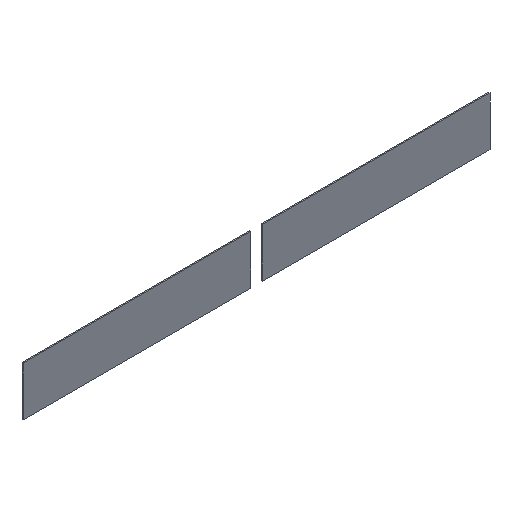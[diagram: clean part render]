
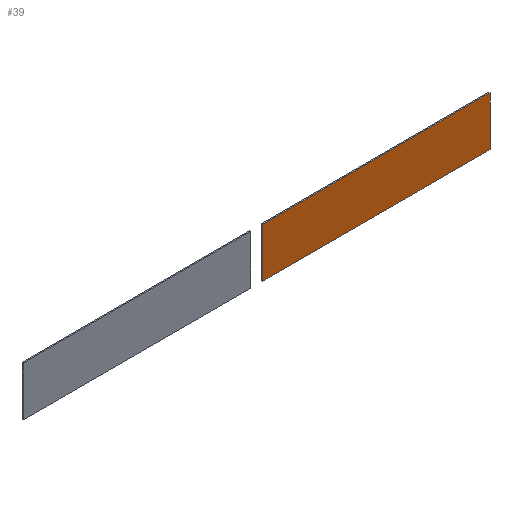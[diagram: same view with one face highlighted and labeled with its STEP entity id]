
A CAD part, isometric view. The second image highlights one B-rep face of the part: STEP entity #39.
In plain terms, the highlighted planar face has unit normal (0, -1, 0).
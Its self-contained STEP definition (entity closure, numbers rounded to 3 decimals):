
#39=ADVANCED_FACE('',(#51),#355,.T.);
#51=FACE_OUTER_BOUND('',#63,.T.);
#63=EDGE_LOOP('',(#87,#88,#89,#90));
#87=ORIENTED_EDGE('',*,*,#249,.F.);
#88=ORIENTED_EDGE('',*,*,#246,.F.);
#89=ORIENTED_EDGE('',*,*,#243,.F.);
#90=ORIENTED_EDGE('',*,*,#239,.F.);
#119=PCURVE('',#351,#167);
#123=PCURVE('',#352,#171);
#127=PCURVE('',#353,#175);
#131=PCURVE('',#354,#179);
#135=PCURVE('',#355,#183);
#136=PCURVE('',#355,#184);
#137=PCURVE('',#355,#185);
#138=PCURVE('',#355,#186);
#167=DEFINITIONAL_REPRESENTATION('',(#264),#586);
#171=DEFINITIONAL_REPRESENTATION('',(#272),#586);
#175=DEFINITIONAL_REPRESENTATION('',(#279),#586);
#179=DEFINITIONAL_REPRESENTATION('',(#286),#586);
#183=DEFINITIONAL_REPRESENTATION('',(#291),#586);
#184=DEFINITIONAL_REPRESENTATION('',(#292),#586);
#185=DEFINITIONAL_REPRESENTATION('',(#293),#586);
#186=DEFINITIONAL_REPRESENTATION('',(#294),#586);
#215=SURFACE_CURVE('',#263,(#119,#138),.PCURVE_S1.);
#219=SURFACE_CURVE('',#271,(#123,#137),.PCURVE_S1.);
#222=SURFACE_CURVE('',#278,(#127,#136),.PCURVE_S1.);
#225=SURFACE_CURVE('',#285,(#131,#135),.PCURVE_S1.);
#239=EDGE_CURVE('',#335,#336,#215,.T.);
#243=EDGE_CURVE('',#336,#339,#219,.T.);
#246=EDGE_CURVE('',#339,#341,#222,.T.);
#249=EDGE_CURVE('',#341,#335,#225,.T.);
#263=B_SPLINE_CURVE_WITH_KNOTS('',1,(#427,#428),.UNSPECIFIED.,.F.,.F.,(2,
2),(-1568.,-1411.),.UNSPECIFIED.);
#264=B_SPLINE_CURVE_WITH_KNOTS('',1,(#429,#430),.UNSPECIFIED.,.F.,.F.,(2,
2),(-1568.,-1411.),.UNSPECIFIED.);
#271=B_SPLINE_CURVE_WITH_KNOTS('',1,(#443,#444),.UNSPECIFIED.,.F.,.F.,(2,
2),(-1411.,-784.),.UNSPECIFIED.);
#272=B_SPLINE_CURVE_WITH_KNOTS('',1,(#445,#446),.UNSPECIFIED.,.F.,.F.,(2,
2),(-1411.,-784.),.UNSPECIFIED.);
#278=B_SPLINE_CURVE_WITH_KNOTS('',1,(#457,#458),.UNSPECIFIED.,.F.,.F.,(2,
2),(-784.,-627.),.UNSPECIFIED.);
#279=B_SPLINE_CURVE_WITH_KNOTS('',1,(#459,#460),.UNSPECIFIED.,.F.,.F.,(2,
2),(-784.,-627.),.UNSPECIFIED.);
#285=B_SPLINE_CURVE_WITH_KNOTS('',1,(#471,#472),.UNSPECIFIED.,.F.,.F.,(2,
2),(-627.,0.),.UNSPECIFIED.);
#286=B_SPLINE_CURVE_WITH_KNOTS('',1,(#473,#474),.UNSPECIFIED.,.F.,.F.,(2,
2),(-627.,0.),.UNSPECIFIED.);
#291=B_SPLINE_CURVE_WITH_KNOTS('',1,(#483,#484),.UNSPECIFIED.,.F.,.F.,(2,
2),(-627.,0.),.UNSPECIFIED.);
#292=B_SPLINE_CURVE_WITH_KNOTS('',1,(#485,#486),.UNSPECIFIED.,.F.,.F.,(2,
2),(-784.,-627.),.UNSPECIFIED.);
#293=B_SPLINE_CURVE_WITH_KNOTS('',1,(#487,#488),.UNSPECIFIED.,.F.,.F.,(2,
2),(-1411.,-784.),.UNSPECIFIED.);
#294=B_SPLINE_CURVE_WITH_KNOTS('',1,(#489,#490),.UNSPECIFIED.,.F.,.F.,(2,
2),(-1568.,-1411.),.UNSPECIFIED.);
#335=VERTEX_POINT('',#419);
#336=VERTEX_POINT('',#420);
#339=VERTEX_POINT('',#423);
#341=VERTEX_POINT('',#425);
#351=PLANE('',#383);
#352=PLANE('',#384);
#353=PLANE('',#385);
#354=PLANE('',#386);
#355=PLANE('',#387);
#383=AXIS2_PLACEMENT_3D('',#413,#398,$);
#384=AXIS2_PLACEMENT_3D('',#414,#399,$);
#385=AXIS2_PLACEMENT_3D('',#415,#400,$);
#386=AXIS2_PLACEMENT_3D('',#416,#401,$);
#387=AXIS2_PLACEMENT_3D('',#417,#402,$);
#398=DIRECTION('',(-1.,0.,0.));
#399=DIRECTION('',(0.,0.,1.));
#400=DIRECTION('',(1.,0.,0.));
#401=DIRECTION('',(0.,0.,-1.));
#402=DIRECTION('',(0.,-1.,0.));
#413=CARTESIAN_POINT('',(15.,322.,-165.));
#414=CARTESIAN_POINT('',(15.,322.,-35.));
#415=CARTESIAN_POINT('',(615.,322.,-35.));
#416=CARTESIAN_POINT('',(615.,322.,-165.));
#417=CARTESIAN_POINT('',(615.,322.,-165.));
#419=CARTESIAN_POINT('',(15.,322.,-165.));
#420=CARTESIAN_POINT('',(15.,322.,-35.));
#423=CARTESIAN_POINT('',(615.,322.,-35.));
#425=CARTESIAN_POINT('',(615.,322.,-165.));
#427=CARTESIAN_POINT('',(15.,322.,-165.));
#428=CARTESIAN_POINT('',(15.,322.,-35.));
#429=CARTESIAN_POINT('',(-1568.,0.));
#430=CARTESIAN_POINT('',(-1411.,0.));
#443=CARTESIAN_POINT('',(15.,322.,-35.));
#444=CARTESIAN_POINT('',(615.,322.,-35.));
#445=CARTESIAN_POINT('',(-1411.,0.));
#446=CARTESIAN_POINT('',(-784.,0.));
#457=CARTESIAN_POINT('',(615.,322.,-35.));
#458=CARTESIAN_POINT('',(615.,322.,-165.));
#459=CARTESIAN_POINT('',(-784.,0.));
#460=CARTESIAN_POINT('',(-627.,0.));
#471=CARTESIAN_POINT('',(615.,322.,-165.));
#472=CARTESIAN_POINT('',(15.,322.,-165.));
#473=CARTESIAN_POINT('',(-627.,0.));
#474=CARTESIAN_POINT('',(0.,0.));
#483=CARTESIAN_POINT('',(0.,-600.));
#484=CARTESIAN_POINT('',(0.,0.));
#485=CARTESIAN_POINT('',(130.,-600.));
#486=CARTESIAN_POINT('',(0.,-600.));
#487=CARTESIAN_POINT('',(130.,0.));
#488=CARTESIAN_POINT('',(130.,-600.));
#489=CARTESIAN_POINT('',(0.,0.));
#490=CARTESIAN_POINT('',(130.,0.));
#586=(
GEOMETRIC_REPRESENTATION_CONTEXT(2)
PARAMETRIC_REPRESENTATION_CONTEXT()
REPRESENTATION_CONTEXT('pspace','')
);
